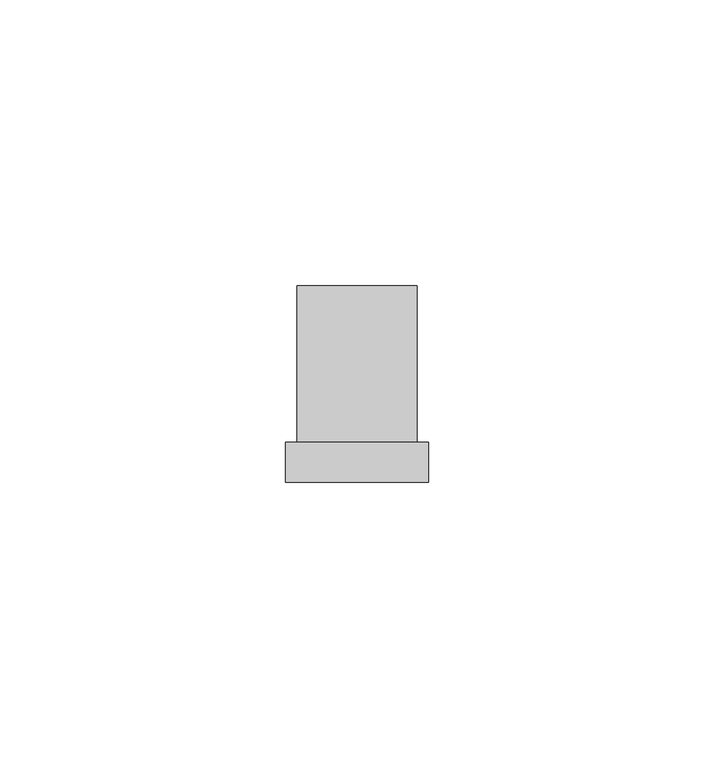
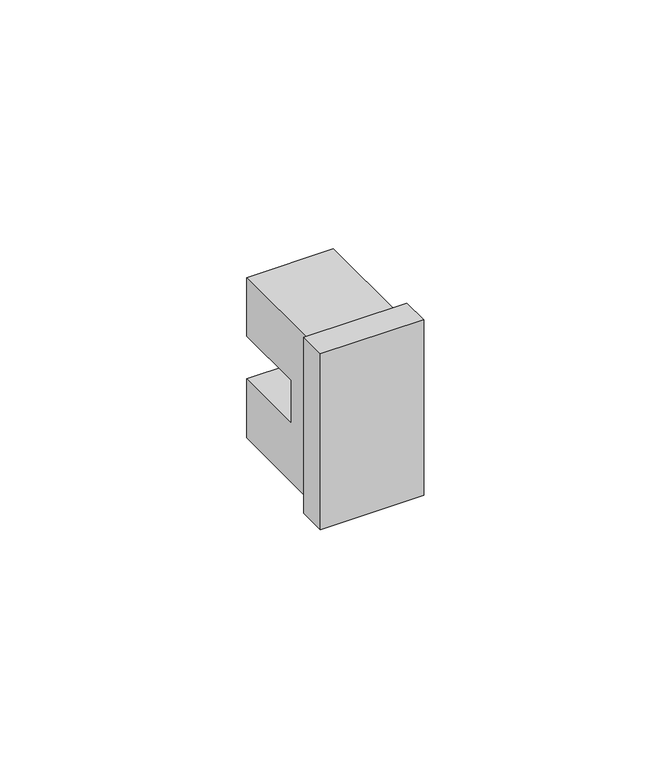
"""IFC4 building model written with IfcOpenShell, lengths in millimetres: proxy geometry, КНС_ВыключателиПереключатели_DKC : Выключатель типа кнопка."""

from ifc_helpers import new_model, si_unit, frame, origin, place, context, project, spatial, polyline, outline, extrude, source, transform, mapped, element, save


def electrical_fixtures_2199573e(model_context):
    return source(origin(), model_context, "Body", "SweptSolid", [
        extrude(outline(polyline([(0.0, 20.5), (0.0, 5.5), (-18.7179028, 5.5), (-18.7179028, -5.4624854), (0.0, -5.4624854), (0.0, -20.5), (-27.4, -20.5), (-27.4, 20.5), (0.0, 20.5)])), frame((-10.5, 0.0, 0.0), z_axis=(1.0, 0.0, 0.0), x_axis=(0.0, 1.0, 0.0)), (0.0, 0.0, 1.0), 21.0),
        extrude(outline(polyline([(12.5, -34.4), (-12.5, -34.4), (-12.5, -27.4), (12.5, -27.4), (12.5, -34.4)])), frame((0.0, 0.0, -22.5), z_axis=(0.0, 0.0, 1.0), x_axis=(1.0, 0.0, 0.0)), (0.0, 0.0, 1.0), 45.0),
    ])


if __name__ == "__main__":
    model = new_model("IFC4")
    model_context = context("Model", 3, world=origin())
    ifc_project = project(units=[si_unit("LENGTHUNIT", "METRE", prefix="MILLI")], contexts=[model_context])
    site = spatial("IfcSite", under=ifc_project)
    building = spatial("IfcBuilding", under=site)
    placement = place(None, origin())
    electrical_fixtures_shape = electrical_fixtures_2199573e(model_context)
    element("IfcBuildingElementProxy", 1, Name="КНС_ВыключателиПереключатели_DKC : Выключатель типа кнопка", ObjectType="КНС_ВыключателиПереключатели_DKC : Выключатель типа кнопка", at=placement, inside=building, context=model_context, shape_type="MappedRepresentation", body=[
        mapped(electrical_fixtures_shape, transform((0.0, 0.0, 0.0), x_axis=(1.0, 0.0, 0.0), y_axis=(0.0, 1.0, 0.0), z_axis=(0.0, 0.0, 1.0))),
    ])
    save(model, "model.ifc")
